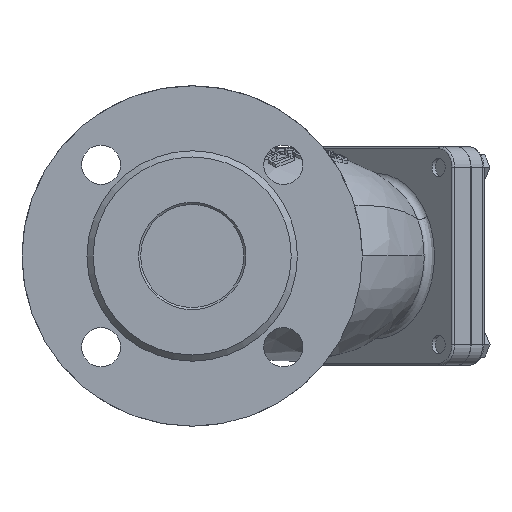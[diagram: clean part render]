
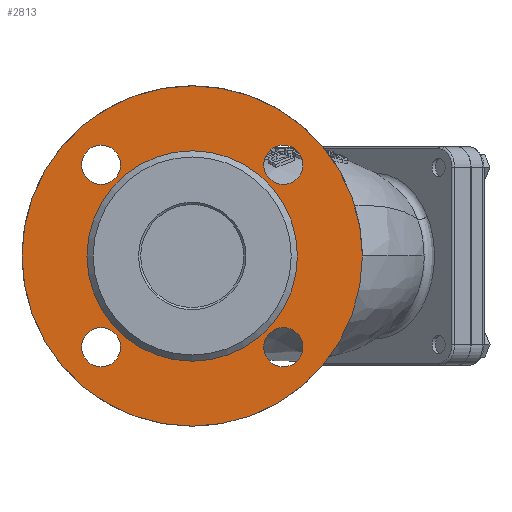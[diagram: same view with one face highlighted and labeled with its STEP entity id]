
A CAD part, left-side view. The second image highlights one B-rep face of the part: STEP entity #2813.
In plain terms, the highlighted planar face has unit normal (-1, 0, 0).
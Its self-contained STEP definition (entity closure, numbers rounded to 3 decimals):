
#209 = DIRECTION ( 'NONE',  ( 1., 0., 0. ) ) ;
#866 = ORIENTED_EDGE ( 'NONE', *, *, #34187, .T. ) ;
#2288 = PLANE ( 'NONE',  #5276 ) ;
#2813 = ADVANCED_FACE ( 'NONE', ( #38083, #28900, #34184, #25976, #19395, #13609 ), #2288, .T. ) ;
#3884 = EDGE_CURVE ( 'NONE', #6658, #6658, #34553, .T. ) ;
#4638 = AXIS2_PLACEMENT_3D ( 'NONE', #11929, #209, #23711 ) ;
#5276 = AXIS2_PLACEMENT_3D ( 'NONE', #24019, #9293, #18208 ) ;
#5965 = DIRECTION ( 'NONE',  ( 0., 0., -1. ) ) ;
#6101 = CIRCLE ( 'NONE', #27761, 51. ) ;
#6165 = DIRECTION ( 'NONE',  ( 1., 0., 0. ) ) ;
#6658 = VERTEX_POINT ( 'NONE', #18502 ) ;
#6735 = EDGE_LOOP ( 'NONE', ( #26482 ) ) ;
#6793 = EDGE_LOOP ( 'NONE', ( #31757 ) ) ;
#8340 = AXIS2_PLACEMENT_3D ( 'NONE', #24959, #37273, #10650 ) ;
#9293 = DIRECTION ( 'NONE',  ( -1., 0., 0. ) ) ;
#10136 = CARTESIAN_POINT ( 'NONE',  ( 3., 44.194, -53.694 ) ) ;
#10443 = EDGE_CURVE ( 'NONE', #33259, #33259, #20098, .T. ) ;
#10650 = DIRECTION ( 'NONE',  ( 0., 0., -1. ) ) ;
#11661 = CARTESIAN_POINT ( 'NONE',  ( 3., 44.194, 34.694 ) ) ;
#11869 = DIRECTION ( 'NONE',  ( 0., 1., 0. ) ) ;
#11929 = CARTESIAN_POINT ( 'NONE',  ( 3., -44.194, 44.194 ) ) ;
#12783 = EDGE_LOOP ( 'NONE', ( #28163 ) ) ;
#13107 = DIRECTION ( 'NONE',  ( 0., 0., -1. ) ) ;
#13609 = FACE_BOUND ( 'NONE', #38242, .T. ) ;
#13668 = VERTEX_POINT ( 'NONE', #21956 ) ;
#15131 = AXIS2_PLACEMENT_3D ( 'NONE', #32379, #6165, #5965 ) ;
#16646 = EDGE_CURVE ( 'NONE', #13668, #13668, #6101, .T. ) ;
#18208 = DIRECTION ( 'NONE',  ( 0., 0., 1. ) ) ;
#18502 = CARTESIAN_POINT ( 'NONE',  ( 3., 0., -82.5 ) ) ;
#19395 = FACE_BOUND ( 'NONE', #6735, .T. ) ;
#20098 = CIRCLE ( 'NONE', #8340, 9.5 ) ;
#20368 = CARTESIAN_POINT ( 'NONE',  ( 3., 0., 0. ) ) ;
#20596 = DIRECTION ( 'NONE',  ( 0., 0., -1. ) ) ;
#21956 = CARTESIAN_POINT ( 'NONE',  ( 3., 51., 0. ) ) ;
#22161 = VERTEX_POINT ( 'NONE', #11661 ) ;
#22748 = AXIS2_PLACEMENT_3D ( 'NONE', #37186, #28009, #13107 ) ;
#23711 = DIRECTION ( 'NONE',  ( 0., 0., -1. ) ) ;
#23829 = VERTEX_POINT ( 'NONE', #35723 ) ;
#24019 = CARTESIAN_POINT ( 'NONE',  ( 3., 0., 0. ) ) ;
#24959 = CARTESIAN_POINT ( 'NONE',  ( 3., -44.194, -44.194 ) ) ;
#25050 = VERTEX_POINT ( 'NONE', #10136 ) ;
#25678 = CIRCLE ( 'NONE', #15131, 9.5 ) ;
#25976 = FACE_BOUND ( 'NONE', #35954, .T. ) ;
#26216 = DIRECTION ( 'NONE',  ( 1., 0., 0. ) ) ;
#26418 = CARTESIAN_POINT ( 'NONE',  ( 3., 44.194, -44.194 ) ) ;
#26482 = ORIENTED_EDGE ( 'NONE', *, *, #34999, .T. ) ;
#27761 = AXIS2_PLACEMENT_3D ( 'NONE', #20368, #32425, #11869 ) ;
#27859 = ORIENTED_EDGE ( 'NONE', *, *, #10443, .T. ) ;
#28009 = DIRECTION ( 'NONE',  ( 1., 0., 0. ) ) ;
#28163 = ORIENTED_EDGE ( 'NONE', *, *, #16646, .T. ) ;
#28900 = FACE_BOUND ( 'NONE', #12783, .T. ) ;
#29203 = ORIENTED_EDGE ( 'NONE', *, *, #3884, .F. ) ;
#31757 = ORIENTED_EDGE ( 'NONE', *, *, #33726, .T. ) ;
#32099 = EDGE_LOOP ( 'NONE', ( #29203 ) ) ;
#32379 = CARTESIAN_POINT ( 'NONE',  ( 3., 44.194, 44.194 ) ) ;
#32425 = DIRECTION ( 'NONE',  ( 1., 0., 0. ) ) ;
#33070 = CARTESIAN_POINT ( 'NONE',  ( 3., -44.194, -53.694 ) ) ;
#33095 = CIRCLE ( 'NONE', #38103, 9.5 ) ;
#33259 = VERTEX_POINT ( 'NONE', #33070 ) ;
#33726 = EDGE_CURVE ( 'NONE', #25050, #25050, #33095, .T. ) ;
#33818 = CIRCLE ( 'NONE', #4638, 9.5 ) ;
#34184 = FACE_BOUND ( 'NONE', #6793, .T. ) ;
#34187 = EDGE_CURVE ( 'NONE', #22161, #22161, #25678, .T. ) ;
#34553 = CIRCLE ( 'NONE', #22748, 82.5 ) ;
#34999 = EDGE_CURVE ( 'NONE', #23829, #23829, #33818, .T. ) ;
#35723 = CARTESIAN_POINT ( 'NONE',  ( 3., -44.194, 34.694 ) ) ;
#35954 = EDGE_LOOP ( 'NONE', ( #27859 ) ) ;
#37186 = CARTESIAN_POINT ( 'NONE',  ( 3., 0., 0. ) ) ;
#37273 = DIRECTION ( 'NONE',  ( 1., 0., 0. ) ) ;
#38083 = FACE_OUTER_BOUND ( 'NONE', #32099, .T. ) ;
#38103 = AXIS2_PLACEMENT_3D ( 'NONE', #26418, #26216, #20596 ) ;
#38242 = EDGE_LOOP ( 'NONE', ( #866 ) ) ;
